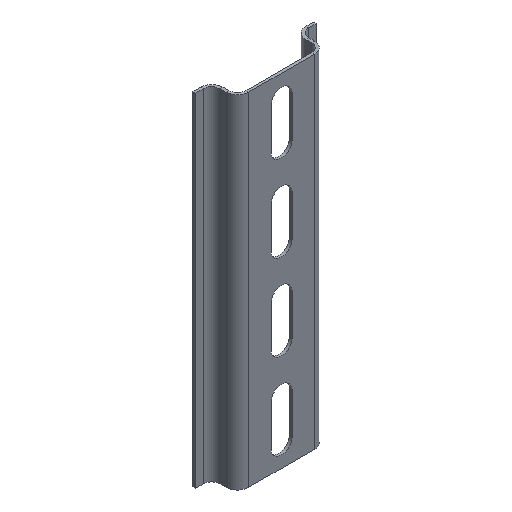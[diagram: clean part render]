
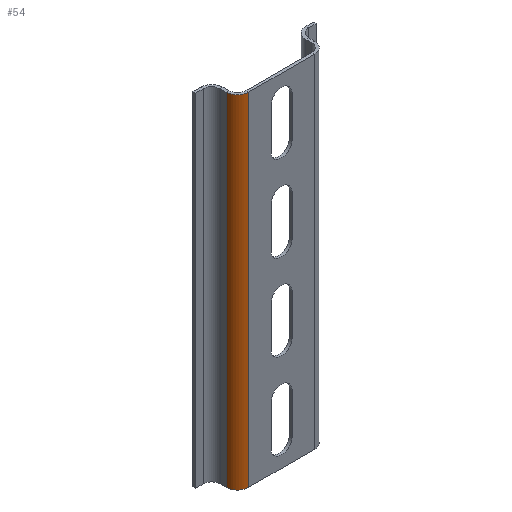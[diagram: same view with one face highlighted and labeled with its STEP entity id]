
A CAD part, isometric view. The second image highlights one B-rep face of the part: STEP entity #54.
In plain terms, the highlighted cylindrical face has radius 3.3 mm (diameter 6.6 mm), a partial arc.
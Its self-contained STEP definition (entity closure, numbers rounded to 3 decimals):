
#54 = ADVANCED_FACE ( 'NONE', ( #460 ), #437, .T. ) ;
#85 = AXIS2_PLACEMENT_3D ( 'NONE', #1233, #1375, #315 ) ;
#90 = VERTEX_POINT ( 'NONE', #279 ) ;
#99 = VECTOR ( 'NONE', #225, 1000. ) ;
#100 = CARTESIAN_POINT ( 'NONE',  ( -9.6, -0.8, 100. ) ) ;
#136 = VECTOR ( 'NONE', #309, 1000. ) ;
#160 = DIRECTION ( 'NONE',  ( 1., 0., 0. ) ) ;
#169 = LINE ( 'NONE', #213, #99 ) ;
#213 = CARTESIAN_POINT ( 'NONE',  ( -12.9, 2.5, 100. ) ) ;
#225 = DIRECTION ( 'NONE',  ( 0., 0., -1. ) ) ;
#239 = CARTESIAN_POINT ( 'NONE',  ( -9.6, -0.8, 0. ) ) ;
#279 = CARTESIAN_POINT ( 'NONE',  ( -12.9, 2.5, 0. ) ) ;
#309 = DIRECTION ( 'NONE',  ( 0., 0., -1. ) ) ;
#315 = DIRECTION ( 'NONE',  ( 1., 0., 0. ) ) ;
#328 = VERTEX_POINT ( 'NONE', #741 ) ;
#344 = CIRCLE ( 'NONE', #1683, 3.3 ) ;
#355 = ORIENTED_EDGE ( 'NONE', *, *, #1431, .T. ) ;
#367 = DIRECTION ( 'NONE',  ( 0., 0., -1. ) ) ;
#437 = CYLINDRICAL_SURFACE ( 'NONE', #530, 3.3 ) ;
#460 = FACE_OUTER_BOUND ( 'NONE', #1056, .T. ) ;
#510 = DIRECTION ( 'NONE',  ( -1., 0., 0. ) ) ;
#530 = AXIS2_PLACEMENT_3D ( 'NONE', #1030, #367, #510 ) ;
#573 = EDGE_CURVE ( 'NONE', #328, #800, #1537, .T. ) ;
#574 = VERTEX_POINT ( 'NONE', #727 ) ;
#727 = CARTESIAN_POINT ( 'NONE',  ( -12.9, 2.5, 100. ) ) ;
#741 = CARTESIAN_POINT ( 'NONE',  ( -9.6, -0.8, 100. ) ) ;
#767 = CIRCLE ( 'NONE', #85, 3.3 ) ;
#800 = VERTEX_POINT ( 'NONE', #239 ) ;
#934 = DIRECTION ( 'NONE',  ( 0., 0., -1. ) ) ;
#948 = ORIENTED_EDGE ( 'NONE', *, *, #1613, .T. ) ;
#1000 = ORIENTED_EDGE ( 'NONE', *, *, #573, .F. ) ;
#1030 = CARTESIAN_POINT ( 'NONE',  ( -9.6, 2.5, 100. ) ) ;
#1056 = EDGE_LOOP ( 'NONE', ( #1195, #1000, #355, #948 ) ) ;
#1195 = ORIENTED_EDGE ( 'NONE', *, *, #1410, .F. ) ;
#1233 = CARTESIAN_POINT ( 'NONE',  ( -9.6, 2.5, 100. ) ) ;
#1375 = DIRECTION ( 'NONE',  ( 0., 0., -1. ) ) ;
#1410 = EDGE_CURVE ( 'NONE', #800, #90, #344, .T. ) ;
#1431 = EDGE_CURVE ( 'NONE', #328, #574, #767, .T. ) ;
#1537 = LINE ( 'NONE', #100, #136 ) ;
#1592 = CARTESIAN_POINT ( 'NONE',  ( -9.6, 2.5, 0. ) ) ;
#1613 = EDGE_CURVE ( 'NONE', #574, #90, #169, .T. ) ;
#1683 = AXIS2_PLACEMENT_3D ( 'NONE', #1592, #934, #160 ) ;
